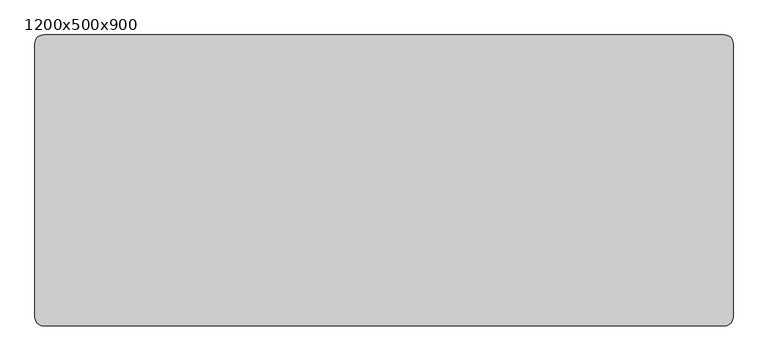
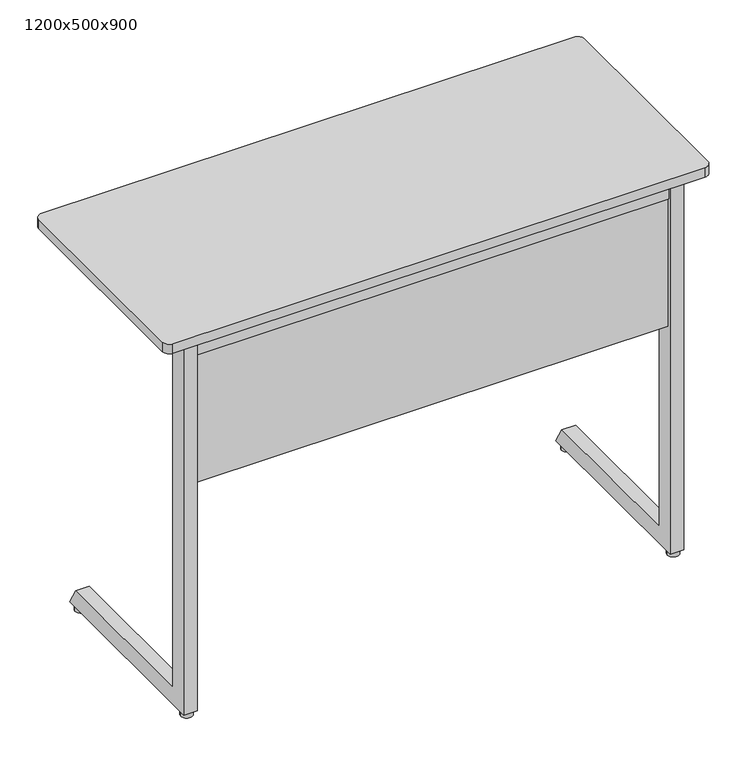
"""IFC4 building model written with IfcOpenShell, lengths in millimetres: furniture geometry, Trivia Light : 1200x500x900."""

from ifc_helpers import new_model, si_unit, point, frame, frame_2d, origin, origin_with_axes, place, context, project, spatial, polyline, circle_curve, trimmed, segment, composite_curve, outline, extrude, source, transform, mapped, element, save


def furniture_1200x500x900_81eecd61(model_context):
    return source(origin(), model_context, "Body", "SweptSolid", [
        extrude(outline(polyline([(434.5100173, 878.0), (419.9996059, 846.4981092), (54.0, 846.4977978), (54.0, 878.0), (434.5100173, 878.0)])), frame((-464.7535601, 0.0, 0.0), z_axis=(1.0, 0.0, 0.0), x_axis=(0.0, 1.0, 0.0)), (0.0, 0.0, 1.0), 30.0),
        extrude(outline(polyline([(873.7997437, -467.7502136), (850.730957, -467.7502136), (850.730957, -499.8065042), (855.0394353, -511.6439509), (852.2203574, -512.6700113), (847.730957, -500.3354852), (847.730957, -464.7502136), (873.7997437, -464.7502136), (873.7997437, -467.7502136)])), frame((0.0, 215.0, 0.0), z_axis=(0.0, 1.0, 0.0), x_axis=(0.0, 0.0, 1.0)), (0.0, 0.0, 1.0), 30.0),
        extrude(outline(polyline([(873.7997437, 467.7535601), (873.7997437, 464.7535601), (847.730957, 464.7535601), (847.730957, 500.3388316), (852.2203574, 512.6733577), (855.0394353, 511.6472973), (850.730957, 499.8098507), (850.730957, 467.7535601), (873.7997437, 467.7535601)])), frame((0.0, 215.0, 0.0), z_axis=(0.0, 1.0, 0.0), x_axis=(0.0, 0.0, 1.0)), (0.0, 0.0, 1.0), 30.0),
        extrude(outline(composite_curve([segment(trimmed(circle_curve(frame_2d((-535.0, 35.0)), 13.0), [point((-548.0, 35.0))], [point((-522.0, 35.0))], False, "CARTESIAN"), True, "CONTINUOUS"), segment(trimmed(circle_curve(frame_2d((-535.0, 35.0)), 13.0), [point((-522.0, 35.0))], [point((-548.0, 35.0))], False, "CARTESIAN"), True, "CONTINUOUS")], self_intersect=False)), origin_with_axes(), (0.0, 0.0, 1.0), 13.0905762),
        extrude(outline(composite_curve([segment(trimmed(circle_curve(frame_2d((535.0, 35.0)), 13.0), [point((522.0, 35.0))], [point((548.0, 35.0))], False, "CARTESIAN"), True, "CONTINUOUS"), segment(trimmed(circle_curve(frame_2d((535.0, 35.0)), 13.0), [point((548.0, 35.0))], [point((522.0, 35.0))], False, "CARTESIAN"), True, "CONTINUOUS")], self_intersect=False)), origin_with_axes(), (0.0, 0.0, 1.0), 13.0905762),
        extrude(outline(composite_curve([segment(trimmed(circle_curve(frame_2d((535.0, 437.5)), 13.0), [point((522.0, 437.5))], [point((548.0, 437.5))], False, "CARTESIAN"), True, "CONTINUOUS"), segment(trimmed(circle_curve(frame_2d((535.0, 437.5)), 13.0), [point((548.0, 437.5))], [point((522.0, 437.5))], False, "CARTESIAN"), True, "CONTINUOUS")], self_intersect=False)), origin_with_axes(), (0.0, 0.0, 1.0), 13.0905762),
        extrude(outline(composite_curve([segment(trimmed(circle_curve(frame_2d((-535.0, 437.5)), 13.0), [point((-548.0, 437.5))], [point((-522.0, 437.5))], False, "CARTESIAN"), True, "CONTINUOUS"), segment(trimmed(circle_curve(frame_2d((-535.0, 437.5)), 13.0), [point((-522.0, 437.5))], [point((-548.0, 437.5))], False, "CARTESIAN"), True, "CONTINUOUS")], self_intersect=False)), origin_with_axes(), (0.0, 0.0, 1.0), 13.0905762),
        extrude(outline(polyline([(434.5100173, 878.0), (419.9996059, 846.4981092), (54.0, 846.4977978), (54.0, 878.0), (434.5100173, 878.0)])), frame((434.7535601, 0.0, 0.0), z_axis=(1.0, 0.0, 0.0), x_axis=(0.0, 1.0, 0.0)), (0.0, 0.0, 1.0), 30.0),
        extrude(outline(composite_curve([segment(trimmed(circle_curve(frame_2d((585.0, 485.0)), 15.0), [point((585.0, 500.0))], [point((600.0, 485.0))], False, "CARTESIAN"), True, "CONTINUOUS"), segment(polyline([(600.0, 485.0), (600.0, 15.0)]), True, "CONTINUOUS"), segment(trimmed(circle_curve(frame_2d((585.0, 15.0)), 15.0), [point((600.0, 15.0))], [point((585.0, 0.0))], False, "CARTESIAN"), True, "CONTINUOUS"), segment(polyline([(585.0, 0.0), (-585.0, 0.0)]), True, "CONTINUOUS"), segment(trimmed(circle_curve(frame_2d((-585.0, 15.0)), 15.0), [point((-585.0, 0.0))], [point((-600.0, 15.0))], False, "CARTESIAN"), True, "CONTINUOUS"), segment(polyline([(-600.0, 15.0), (-600.0, 485.0)]), True, "CONTINUOUS"), segment(trimmed(circle_curve(frame_2d((-585.0, 485.0)), 15.0), [point((-600.0, 485.0))], [point((-585.0, 500.0))], False, "CARTESIAN"), True, "CONTINUOUS"), segment(polyline([(-585.0, 500.0), (585.0, 500.0)]), True, "CONTINUOUS")], self_intersect=False)), frame((0.0, 0.0, 878.0), z_axis=(0.0, 0.0, 1.0), x_axis=(1.0, 0.0, 0.0)), (0.0, 0.0, 1.0), 22.0),
        extrude(outline(polyline([(519.7534307, 54.0), (519.7534307, 24.0), (-519.7534307, 24.0), (-519.7534307, 54.0), (519.7534307, 54.0)])), frame((0.0, 0.0, 836.0), z_axis=(0.0, 0.0, 1.0), x_axis=(1.0, 0.0, 0.0)), (0.0, 0.0, 1.0), 42.0),
        extrude(outline(polyline([(62.0, 51.5905762), (432.1448423, 51.5905762), (454.8944033, 11.5905762), (20.0, 11.5905762), (20.0, 878.0), (62.0, 878.0), (62.0, 51.5905762)])), frame((-549.7535601, 0.0, 0.0), z_axis=(1.0, 0.0, 0.0), x_axis=(0.0, 1.0, 0.0)), (0.0, 0.0, 1.0), 30.0001294),
        extrude(outline(polyline([(62.0, 51.5905762), (432.1448423, 51.5905762), (454.8944033, 11.5905762), (20.0, 11.5905762), (20.0, 878.0), (62.0, 878.0), (62.0, 51.5905762)])), frame((519.7534307, 0.0, 0.0), z_axis=(1.0, 0.0, 0.0), x_axis=(0.0, 1.0, 0.0)), (0.0, 0.0, 1.0), 30.0001294),
        extrude(outline(polyline([(519.7534307, 45.9187166), (519.7534307, 27.9321552), (-519.7534307, 27.9321552), (-519.7534307, 45.9187166), (519.7534307, 45.9187166)])), frame((0.0, 0.0, 536.5950628), z_axis=(0.0, 0.0, 1.0), x_axis=(1.0, 0.0, 0.0)), (0.0, 0.0, 1.0), 299.4049372),
    ])


if __name__ == "__main__":
    model = new_model("IFC4")
    model_context = context("Model", 3, world=origin())
    ifc_project = project(units=[si_unit("LENGTHUNIT", "METRE", prefix="MILLI")], contexts=[model_context])
    site = spatial("IfcSite", under=ifc_project)
    building = spatial("IfcBuilding", under=site)
    placement = place(None, origin())
    furniture_1200x500x900_shape = furniture_1200x500x900_81eecd61(model_context)
    element("IfcFurniture", 1, ObjectType="Trivia Light : 1200x500x900", at=placement, inside=building, context=model_context, shape_type="MappedRepresentation", body=[
        mapped(furniture_1200x500x900_shape, transform((0.0, 0.0, 0.0), x_axis=(1.0, 0.0, 0.0), y_axis=(0.0, 1.0, 0.0), z_axis=(0.0, 0.0, 1.0))),
    ])
    save(model, "model.ifc")
